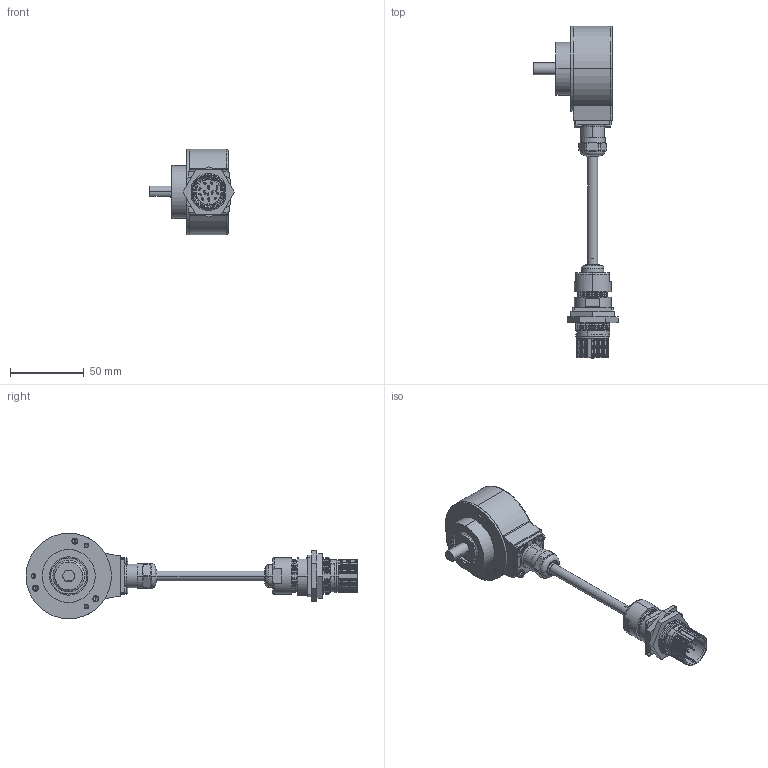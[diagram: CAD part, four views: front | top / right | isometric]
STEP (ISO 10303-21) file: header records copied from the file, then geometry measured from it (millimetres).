
FILE_DESCRIPTION (( 'STEP AP203' ), '1' );
FILE_NAME ('K58I.OXX.XXXXX.XS1C508.6XR14.XXXX.step', '2025-12-08T15:10:15', ( '' ), ( '' ), 'SwSTEP 2.0', 'SolidWorks 2021', '' );
FILE_SCHEMA (( 'CONFIG_CONTROL_DESIGN' ));
Length unit declared in the file: millimetre
Products named in the file (1): K58I.OXX.XXXXX.XS1C508.6XR14.XXXX
Bounding box: 57.26 x 225.35 x 58 mm (x, y, z)
Volume: 151836.8 mm3; surface area: 57003.3 mm2
Topology: 32 solids, 32 shells, 1784 faces, 4515 edges, 2884 vertices
Faces by surface type: cylinder 659, plane 512, cone 378, bspline 124, torus 69, sphere 42
Entity records: 60914 total; most frequent: CARTESIAN_POINT 19018, ORIENTED_EDGE 8958, DIRECTION 8535, EDGE_CURVE 4479, AXIS2_PLACEMENT_3D 3389, VERTEX_POINT 2884, EDGE_LOOP 1959, ADVANCED_FACE 1784
